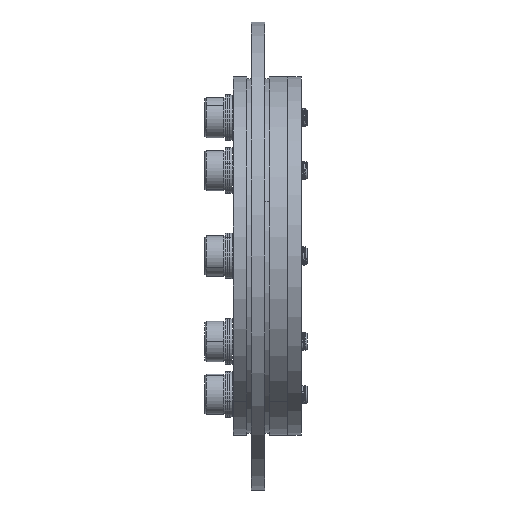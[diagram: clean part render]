
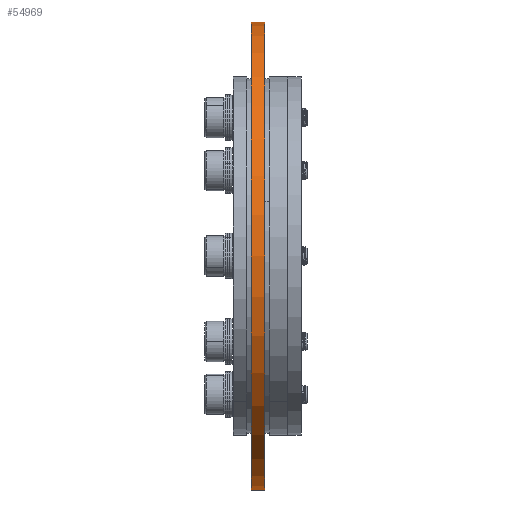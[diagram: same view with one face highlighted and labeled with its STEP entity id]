
A CAD part, left-side view. The second image highlights one B-rep face of the part: STEP entity #54969.
In plain terms, the highlighted cylindrical face has radius 51.5 mm (diameter 103 mm), a partial arc.
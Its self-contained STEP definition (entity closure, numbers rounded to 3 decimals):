
#2695 = LINE ( 'NONE', #19528, #62759 ) ;
#3397 = CIRCLE ( 'NONE', #5716, 51.5 ) ;
#5601 = DIRECTION ( 'NONE',  ( 0., 1., 0. ) ) ;
#5716 = AXIS2_PLACEMENT_3D ( 'NONE', #42220, #5601, #27852 ) ;
#6068 = DIRECTION ( 'NONE',  ( 0., -1., 0. ) ) ;
#8377 = VERTEX_POINT ( 'NONE', #20745 ) ;
#11567 = AXIS2_PLACEMENT_3D ( 'NONE', #48437, #6068, #37281 ) ;
#13436 = DIRECTION ( 'NONE',  ( 0., 1., 0. ) ) ;
#13776 = DIRECTION ( 'NONE',  ( 0., 0., 1. ) ) ;
#13883 = CIRCLE ( 'NONE', #11567, 51.5 ) ;
#19165 = DIRECTION ( 'NONE',  ( 0., 1., 0. ) ) ;
#19520 = EDGE_CURVE ( 'NONE', #8377, #62388, #13883, .T. ) ;
#19528 = CARTESIAN_POINT ( 'NONE',  ( 0., -3., -51.5 ) ) ;
#20745 = CARTESIAN_POINT ( 'NONE',  ( 0., 0., 51.5 ) ) ;
#23126 = LINE ( 'NONE', #40717, #51383 ) ;
#23852 = VERTEX_POINT ( 'NONE', #48200 ) ;
#27852 = DIRECTION ( 'NONE',  ( 0., 0., -1. ) ) ;
#35600 = ORIENTED_EDGE ( 'NONE', *, *, #69015, .T. ) ;
#37281 = DIRECTION ( 'NONE',  ( 0., 0., 1. ) ) ;
#37338 = VERTEX_POINT ( 'NONE', #52357 ) ;
#40717 = CARTESIAN_POINT ( 'NONE',  ( 0., -3., 51.5 ) ) ;
#42220 = CARTESIAN_POINT ( 'NONE',  ( 0., -3., 0. ) ) ;
#46905 = CARTESIAN_POINT ( 'NONE',  ( 0., 0., -51.5 ) ) ;
#48200 = CARTESIAN_POINT ( 'NONE',  ( 0., -3., 51.5 ) ) ;
#48437 = CARTESIAN_POINT ( 'NONE',  ( 0., 0., 0. ) ) ;
#51383 = VECTOR ( 'NONE', #13436, 1000. ) ;
#52357 = CARTESIAN_POINT ( 'NONE',  ( 0., -3., -51.5 ) ) ;
#52899 = EDGE_LOOP ( 'NONE', ( #35600, #66833, #65989, #67843 ) ) ;
#53242 = CYLINDRICAL_SURFACE ( 'NONE', #56281, 51.5 ) ;
#54969 = ADVANCED_FACE ( 'NONE', ( #57922 ), #53242, .T. ) ;
#56281 = AXIS2_PLACEMENT_3D ( 'NONE', #69380, #19165, #13776 ) ;
#57922 = FACE_OUTER_BOUND ( 'NONE', #52899, .T. ) ;
#62388 = VERTEX_POINT ( 'NONE', #46905 ) ;
#62759 = VECTOR ( 'NONE', #63323, 1000. ) ;
#63323 = DIRECTION ( 'NONE',  ( 0., 1., 0. ) ) ;
#63409 = EDGE_CURVE ( 'NONE', #37338, #62388, #2695, .T. ) ;
#64355 = EDGE_CURVE ( 'NONE', #23852, #8377, #23126, .T. ) ;
#65989 = ORIENTED_EDGE ( 'NONE', *, *, #19520, .T. ) ;
#66833 = ORIENTED_EDGE ( 'NONE', *, *, #64355, .T. ) ;
#67843 = ORIENTED_EDGE ( 'NONE', *, *, #63409, .F. ) ;
#69015 = EDGE_CURVE ( 'NONE', #37338, #23852, #3397, .T. ) ;
#69380 = CARTESIAN_POINT ( 'NONE',  ( 0., -3., 0. ) ) ;
